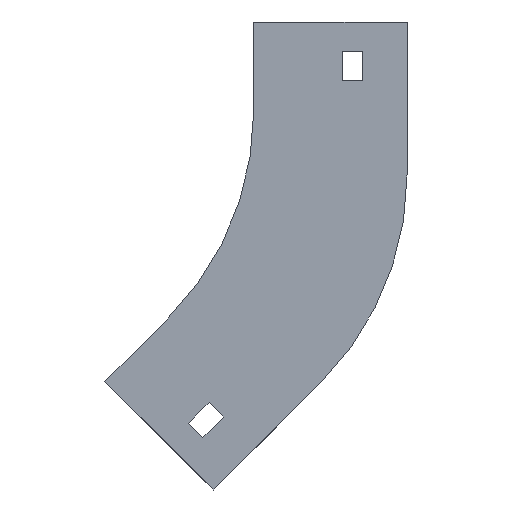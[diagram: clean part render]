
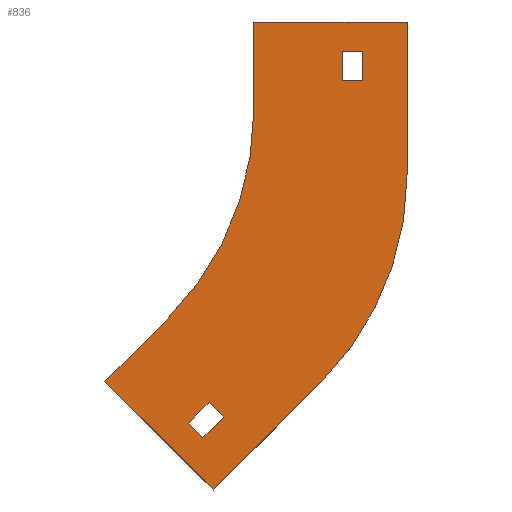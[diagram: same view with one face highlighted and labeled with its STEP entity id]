
A CAD part, left-side view. The second image highlights one B-rep face of the part: STEP entity #836.
In plain terms, the highlighted planar face has unit normal (-1, 0, 0).
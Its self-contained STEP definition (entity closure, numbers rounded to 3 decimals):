
#21 = VERTEX_POINT ( 'NONE', #69 ) ;
#35 = VERTEX_POINT ( 'NONE', #898 ) ;
#40 = CARTESIAN_POINT ( 'NONE',  ( -39.5, -37., -10. ) ) ;
#55 = DIRECTION ( 'NONE',  ( 0., 0., 1. ) ) ;
#57 = FACE_BOUND ( 'NONE', #1244, .T. ) ;
#67 = DIRECTION ( 'NONE',  ( 0., -0.707, -0.707 ) ) ;
#69 = CARTESIAN_POINT ( 'NONE',  ( -39.5, 50.503, -121.924 ) ) ;
#79 = VERTEX_POINT ( 'NONE', #1092 ) ;
#86 = EDGE_CURVE ( 'NONE', #762, #1001, #627, .T. ) ;
#88 = CARTESIAN_POINT ( 'NONE',  ( -39.5, 15.147, -128.995 ) ) ;
#99 = DIRECTION ( 'NONE',  ( 1., 0., 0. ) ) ;
#101 = CARTESIAN_POINT ( 'NONE',  ( -39.5, 0., 0. ) ) ;
#102 = DIRECTION ( 'NONE',  ( 0., -0.707, 0.707 ) ) ;
#106 = VERTEX_POINT ( 'NONE', #1264 ) ;
#107 = CARTESIAN_POINT ( 'NONE',  ( -39.5, -37., -10. ) ) ;
#117 = VECTOR ( 'NONE', #823, 1000. ) ;
#138 = CARTESIAN_POINT ( 'NONE',  ( -39.5, 100., -30. ) ) ;
#145 = EDGE_LOOP ( 'NONE', ( #959, #1363, #574, #1015 ) ) ;
#146 = DIRECTION ( 'NONE',  ( 0., 0.707, 0.707 ) ) ;
#154 = CARTESIAN_POINT ( 'NONE',  ( -39.5, 0., 0. ) ) ;
#156 = EDGE_CURVE ( 'NONE', #21, #762, #418, .T. ) ;
#189 = EDGE_CURVE ( 'NONE', #871, #35, #840, .T. ) ;
#204 = AXIS2_PLACEMENT_3D ( 'NONE', #721, #99, #1368 ) ;
#206 = AXIS2_PLACEMENT_3D ( 'NONE', #693, #719, #1003 ) ;
#207 = CARTESIAN_POINT ( 'NONE',  ( -39.5, 13.733, -158.693 ) ) ;
#211 = VECTOR ( 'NONE', #1208, 1000. ) ;
#217 = EDGE_CURVE ( 'NONE', #79, #695, #413, .T. ) ;
#230 = DIRECTION ( 'NONE',  ( 0., -0.707, 0.707 ) ) ;
#236 = VERTEX_POINT ( 'NONE', #424 ) ;
#249 = VECTOR ( 'NONE', #67, 1000. ) ;
#252 = FACE_OUTER_BOUND ( 'NONE', #1151, .T. ) ;
#259 = CARTESIAN_POINT ( 'NONE',  ( -39.5, 10.197, -133.945 ) ) ;
#271 = LINE ( 'NONE', #594, #653 ) ;
#278 = LINE ( 'NONE', #40, #319 ) ;
#280 = ORIENTED_EDGE ( 'NONE', *, *, #971, .F. ) ;
#294 = VERTEX_POINT ( 'NONE', #1189 ) ;
#319 = VECTOR ( 'NONE', #1006, 1000. ) ;
#325 = CARTESIAN_POINT ( 'NONE',  ( -39.5, 17.269, -141.016 ) ) ;
#330 = VECTOR ( 'NONE', #55, 1000. ) ;
#334 = LINE ( 'NONE', #348, #520 ) ;
#348 = CARTESIAN_POINT ( 'NONE',  ( -39.5, -52., 0. ) ) ;
#351 = LINE ( 'NONE', #696, #847 ) ;
#352 = EDGE_CURVE ( 'NONE', #643, #106, #334, .T. ) ;
#362 = DIRECTION ( 'NONE',  ( 0., 0., -1. ) ) ;
#370 = VECTOR ( 'NONE', #230, 1000. ) ;
#413 = LINE ( 'NONE', #835, #117 ) ;
#415 = ORIENTED_EDGE ( 'NONE', *, *, #851, .F. ) ;
#418 = LINE ( 'NONE', #1051, #830 ) ;
#424 = CARTESIAN_POINT ( 'NONE',  ( -39.5, -30., -20. ) ) ;
#432 = ORIENTED_EDGE ( 'NONE', *, *, #794, .F. ) ;
#442 = CARTESIAN_POINT ( 'NONE',  ( -39.5, -30., -20. ) ) ;
#462 = LINE ( 'NONE', #154, #1099 ) ;
#468 = EDGE_CURVE ( 'NONE', #1354, #926, #684, .T. ) ;
#520 = VECTOR ( 'NONE', #1302, 1000. ) ;
#529 = EDGE_CURVE ( 'NONE', #35, #1354, #271, .T. ) ;
#549 = VECTOR ( 'NONE', #362, 1000. ) ;
#553 = ORIENTED_EDGE ( 'NONE', *, *, #468, .F. ) ;
#568 = ORIENTED_EDGE ( 'NONE', *, *, #156, .F. ) ;
#574 = ORIENTED_EDGE ( 'NONE', *, *, #822, .T. ) ;
#588 = LINE ( 'NONE', #1014, #330 ) ;
#594 = CARTESIAN_POINT ( 'NONE',  ( -39.5, 22.218, -136.066 ) ) ;
#605 = DIRECTION ( 'NONE',  ( 0., 0.707, -0.707 ) ) ;
#610 = CARTESIAN_POINT ( 'NONE',  ( -39.5, 22.218, -136.066 ) ) ;
#627 = CIRCLE ( 'NONE', #206, 100. ) ;
#628 = ORIENTED_EDGE ( 'NONE', *, *, #189, .F. ) ;
#640 = EDGE_CURVE ( 'NONE', #789, #1009, #821, .T. ) ;
#643 = VERTEX_POINT ( 'NONE', #101 ) ;
#653 = VECTOR ( 'NONE', #605, 1000. ) ;
#683 = ORIENTED_EDGE ( 'NONE', *, *, #1056, .F. ) ;
#684 = LINE ( 'NONE', #1139, #249 ) ;
#693 = CARTESIAN_POINT ( 'NONE',  ( -39.5, 100., -30. ) ) ;
#695 = VERTEX_POINT ( 'NONE', #107 ) ;
#696 = CARTESIAN_POINT ( 'NONE',  ( -39.5, 50.503, -121.924 ) ) ;
#698 = EDGE_CURVE ( 'NONE', #294, #236, #765, .T. ) ;
#719 = DIRECTION ( 'NONE',  ( -1., 0., 0. ) ) ;
#721 = CARTESIAN_POINT ( 'NONE',  ( -39.5, 48., -51.539 ) ) ;
#739 = CARTESIAN_POINT ( 'NONE',  ( -39.5, 17.269, -141.016 ) ) ;
#762 = VERTEX_POINT ( 'NONE', #873 ) ;
#765 = LINE ( 'NONE', #442, #211 ) ;
#789 = VERTEX_POINT ( 'NONE', #1214 ) ;
#794 = EDGE_CURVE ( 'NONE', #1001, #643, #462, .T. ) ;
#797 = FACE_BOUND ( 'NONE', #145, .T. ) ;
#802 = CARTESIAN_POINT ( 'NONE',  ( -39.5, -52., -51.539 ) ) ;
#821 = LINE ( 'NONE', #207, #1200 ) ;
#822 = EDGE_CURVE ( 'NONE', #695, #294, #278, .T. ) ;
#823 = DIRECTION ( 'NONE',  ( 0., -1., 0. ) ) ;
#830 = VECTOR ( 'NONE', #102, 1000. ) ;
#835 = CARTESIAN_POINT ( 'NONE',  ( -39.5, -30., -10. ) ) ;
#836 = ADVANCED_FACE ( 'NONE', ( #252, #797, #57 ), #1137, .F. ) ;
#840 = LINE ( 'NONE', #88, #1315 ) ;
#847 = VECTOR ( 'NONE', #146, 1000. ) ;
#851 = EDGE_CURVE ( 'NONE', #1009, #21, #351, .T. ) ;
#871 = VERTEX_POINT ( 'NONE', #259 ) ;
#873 = CARTESIAN_POINT ( 'NONE',  ( -39.5, 29.289, -100.711 ) ) ;
#878 = ORIENTED_EDGE ( 'NONE', *, *, #352, .F. ) ;
#882 = ORIENTED_EDGE ( 'NONE', *, *, #529, .F. ) ;
#890 = VERTEX_POINT ( 'NONE', #1016 ) ;
#898 = CARTESIAN_POINT ( 'NONE',  ( -39.5, 15.147, -128.995 ) ) ;
#926 = VERTEX_POINT ( 'NONE', #739 ) ;
#936 = CARTESIAN_POINT ( 'NONE',  ( -39.5, 0., -30. ) ) ;
#939 = AXIS2_PLACEMENT_3D ( 'NONE', #138, #1103, #1351 ) ;
#959 = ORIENTED_EDGE ( 'NONE', *, *, #1301, .T. ) ;
#971 = EDGE_CURVE ( 'NONE', #890, #789, #1313, .T. ) ;
#1000 = DIRECTION ( 'NONE',  ( 0., 0., 1. ) ) ;
#1001 = VERTEX_POINT ( 'NONE', #936 ) ;
#1003 = DIRECTION ( 'NONE',  ( 0., 0., -1. ) ) ;
#1006 = DIRECTION ( 'NONE',  ( 0., 0., -1. ) ) ;
#1009 = VERTEX_POINT ( 'NONE', #1286 ) ;
#1014 = CARTESIAN_POINT ( 'NONE',  ( -39.5, -30., -10. ) ) ;
#1015 = ORIENTED_EDGE ( 'NONE', *, *, #698, .T. ) ;
#1016 = CARTESIAN_POINT ( 'NONE',  ( -39.5, -52., -51.539 ) ) ;
#1051 = CARTESIAN_POINT ( 'NONE',  ( -39.5, 29.289, -100.711 ) ) ;
#1054 = ORIENTED_EDGE ( 'NONE', *, *, #1216, .F. ) ;
#1056 = EDGE_CURVE ( 'NONE', #926, #871, #1291, .T. ) ;
#1058 = DIRECTION ( 'NONE',  ( 0., 0.707, 0.707 ) ) ;
#1063 = DIRECTION ( 'NONE',  ( 0., 0.707, -0.707 ) ) ;
#1092 = CARTESIAN_POINT ( 'NONE',  ( -39.5, -30., -10. ) ) ;
#1099 = VECTOR ( 'NONE', #1000, 1000. ) ;
#1103 = DIRECTION ( 'NONE',  ( 1., 0., 0. ) ) ;
#1112 = ORIENTED_EDGE ( 'NONE', *, *, #86, .F. ) ;
#1137 = PLANE ( 'NONE',  #939 ) ;
#1139 = CARTESIAN_POINT ( 'NONE',  ( -39.5, 22.218, -136.066 ) ) ;
#1151 = EDGE_LOOP ( 'NONE', ( #878, #432, #1112, #568, #415, #1390, #280, #1054 ) ) ;
#1189 = CARTESIAN_POINT ( 'NONE',  ( -39.5, -37., -20. ) ) ;
#1200 = VECTOR ( 'NONE', #1063, 1000. ) ;
#1208 = DIRECTION ( 'NONE',  ( 0., 1., 0. ) ) ;
#1214 = CARTESIAN_POINT ( 'NONE',  ( -39.5, -22.711, -122.25 ) ) ;
#1216 = EDGE_CURVE ( 'NONE', #106, #890, #1349, .T. ) ;
#1244 = EDGE_LOOP ( 'NONE', ( #553, #882, #628, #683 ) ) ;
#1264 = CARTESIAN_POINT ( 'NONE',  ( -39.5, -52., 0. ) ) ;
#1286 = CARTESIAN_POINT ( 'NONE',  ( -39.5, 13.733, -158.693 ) ) ;
#1291 = LINE ( 'NONE', #325, #370 ) ;
#1301 = EDGE_CURVE ( 'NONE', #236, #79, #588, .T. ) ;
#1302 = DIRECTION ( 'NONE',  ( 0., -1., 0. ) ) ;
#1313 = CIRCLE ( 'NONE', #204, 100. ) ;
#1315 = VECTOR ( 'NONE', #1058, 1000. ) ;
#1349 = LINE ( 'NONE', #802, #549 ) ;
#1351 = DIRECTION ( 'NONE',  ( 0., 0., -1. ) ) ;
#1354 = VERTEX_POINT ( 'NONE', #610 ) ;
#1363 = ORIENTED_EDGE ( 'NONE', *, *, #217, .T. ) ;
#1368 = DIRECTION ( 'NONE',  ( 0., 0., 1. ) ) ;
#1390 = ORIENTED_EDGE ( 'NONE', *, *, #640, .F. ) ;
